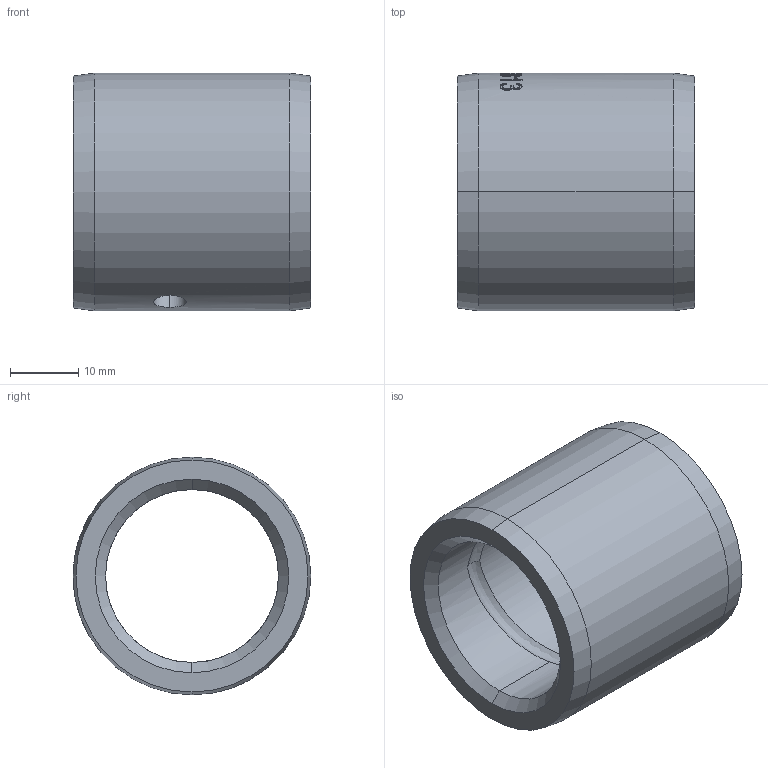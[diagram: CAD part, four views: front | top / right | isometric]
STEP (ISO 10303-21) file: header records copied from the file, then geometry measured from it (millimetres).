
FILE_DESCRIPTION (( 'STEP AP203' ), '1' );
FILE_NAME ('SBS0813_1000Rod_Bushing.STEP', '2020-12-18T15:23:33', ( '' ), ( '' ), 'SwSTEP 2.0', 'SolidWorks 2020', '' );
FILE_SCHEMA (( 'CONFIG_CONTROL_DESIGN' ));
Length unit declared in the file: inch
Products named in the file (1): SBS0813_1000Rod_Bushing
Bounding box: 34.92 x 34.94 x 34.94 mm (x, y, z)
Volume: 15200.2 mm3; surface area: 7402.9 mm2
Topology: 1 solids, 1 shells, 139 faces, 369 edges, 243 vertices
Faces by surface type: bspline 85, cylinder 23, plane 23, cone 8
Entity records: 9614 total; most frequent: CARTESIAN_POINT 6696, ORIENTED_EDGE 738, EDGE_CURVE 369, DIRECTION 329, VERTEX_POINT 243, B_SPLINE_CURVE_WITH_KNOTS 170, EDGE_LOOP 154, ADVANCED_FACE 139
